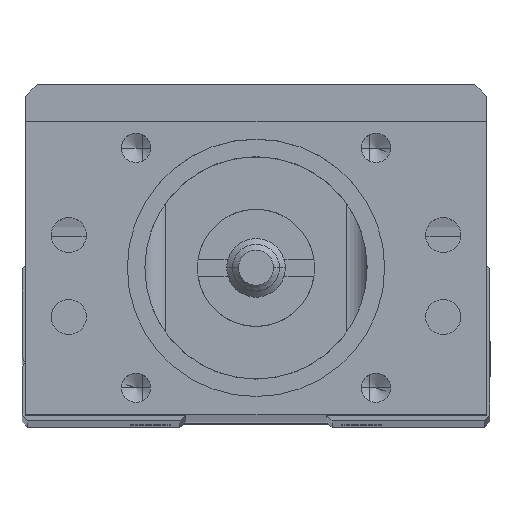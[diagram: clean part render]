
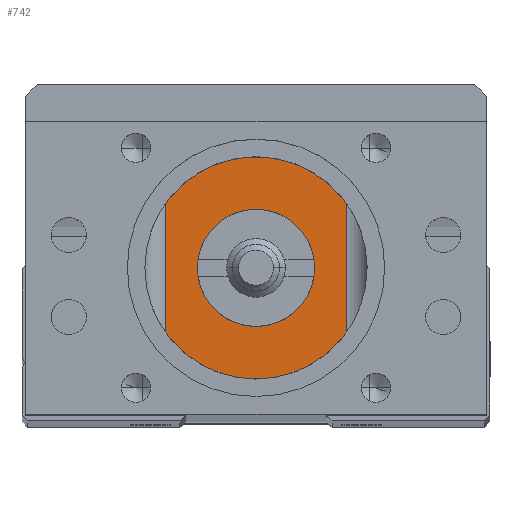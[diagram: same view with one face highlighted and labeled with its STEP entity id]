
A CAD part, top view. The second image highlights one B-rep face of the part: STEP entity #742.
In plain terms, the highlighted planar face has unit normal (0, 0, 1).
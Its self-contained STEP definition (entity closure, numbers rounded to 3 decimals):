
#723 = ORIENTED_EDGE ( 'NONE', *, *, #735, .F. ) ;
#728 = EDGE_LOOP ( 'NONE', ( #723, #732, #1053, #971 ) ) ;
#730 = EDGE_CURVE ( 'NONE', #738, #736, #4396, .T. ) ;
#732 = ORIENTED_EDGE ( 'NONE', *, *, #739, .T. ) ;
#735 = EDGE_CURVE ( 'NONE', #745, #746, #4452, .T. ) ;
#736 = VERTEX_POINT ( 'NONE', #4454 ) ;
#738 = VERTEX_POINT ( 'NONE', #4448 ) ;
#739 = EDGE_CURVE ( 'NONE', #745, #738, #4439, .T. ) ;
#742 = ADVANCED_FACE ( 'NONE', ( #4440, #4435 ), #4432, .F. ) ;
#745 = VERTEX_POINT ( 'NONE', #4447 ) ;
#746 = VERTEX_POINT ( 'NONE', #4431 ) ;
#747 = ORIENTED_EDGE ( 'NONE', *, *, #767, .F. ) ;
#749 = EDGE_LOOP ( 'NONE', ( #747, #750 ) ) ;
#750 = ORIENTED_EDGE ( 'NONE', *, *, #1498, .F. ) ;
#767 = EDGE_CURVE ( 'NONE', #1499, #1443, #4468, .T. ) ;
#770 = EDGE_CURVE ( 'NONE', #736, #746, #4514, .T. ) ;
#971 = ORIENTED_EDGE ( 'NONE', *, *, #770, .T. ) ;
#1053 = ORIENTED_EDGE ( 'NONE', *, *, #730, .T. ) ;
#1443 = VERTEX_POINT ( 'NONE', #5602 ) ;
#1498 = EDGE_CURVE ( 'NONE', #1443, #1499, #5782, .T. ) ;
#1499 = VERTEX_POINT ( 'NONE', #5746 ) ;
#4387 = DIRECTION ( 'NONE',  ( -1., 0., 0. ) ) ;
#4388 = VECTOR ( 'NONE', #4387, 1000. ) ;
#4389 = CARTESIAN_POINT ( 'NONE',  ( -9.7, 25.5, 172.5 ) ) ;
#4396 = LINE ( 'NONE', #4389, #4388 ) ;
#4426 = DIRECTION ( 'NONE',  ( -1., 0., 0. ) ) ;
#4427 = DIRECTION ( 'NONE',  ( 0., 0., -1. ) ) ;
#4428 = CARTESIAN_POINT ( 'NONE',  ( -9.7, 0., 172.5 ) ) ;
#4431 = CARTESIAN_POINT ( 'NONE',  ( -7.7, 0.5, 172.5 ) ) ;
#4432 = PLANE ( 'NONE',  #4442 ) ;
#4435 = FACE_BOUND ( 'NONE', #749, .T. ) ;
#4436 = DIRECTION ( 'NONE',  ( 0., 1., 0. ) ) ;
#4437 = VECTOR ( 'NONE', #4436, 1000. ) ;
#4438 = CARTESIAN_POINT ( 'NONE',  ( 7.7, 25.5, 172.5 ) ) ;
#4439 = LINE ( 'NONE', #4438, #4437 ) ;
#4440 = FACE_OUTER_BOUND ( 'NONE', #728, .T. ) ;
#4442 = AXIS2_PLACEMENT_3D ( 'NONE', #4428, #4427, #4426 ) ;
#4447 = CARTESIAN_POINT ( 'NONE',  ( 7.7, 0.5, 172.5 ) ) ;
#4448 = CARTESIAN_POINT ( 'NONE',  ( 7.7, 25.5, 172.5 ) ) ;
#4449 = DIRECTION ( 'NONE',  ( -1., 0., 0. ) ) ;
#4450 = VECTOR ( 'NONE', #4449, 1000. ) ;
#4451 = CARTESIAN_POINT ( 'NONE',  ( -6., 0.5, 172.5 ) ) ;
#4452 = LINE ( 'NONE', #4451, #4450 ) ;
#4454 = CARTESIAN_POINT ( 'NONE',  ( -7.7, 25.5, 172.5 ) ) ;
#4462 = AXIS2_PLACEMENT_3D ( 'NONE', #4480, #4513, #4512 ) ;
#4468 = CIRCLE ( 'NONE', #4462, 5. ) ;
#4480 = CARTESIAN_POINT ( 'NONE',  ( 0., 13.05, 172.5 ) ) ;
#4507 = DIRECTION ( 'NONE',  ( 0., -1., 0. ) ) ;
#4508 = VECTOR ( 'NONE', #4507, 1000. ) ;
#4509 = CARTESIAN_POINT ( 'NONE',  ( -7.7, 0.5, 172.5 ) ) ;
#4512 = DIRECTION ( 'NONE',  ( -1., 0., 0. ) ) ;
#4513 = DIRECTION ( 'NONE',  ( 0., 0., 1. ) ) ;
#4514 = LINE ( 'NONE', #4509, #4508 ) ;
#5602 = CARTESIAN_POINT ( 'NONE',  ( 5., 13.05, 172.5 ) ) ;
#5746 = CARTESIAN_POINT ( 'NONE',  ( -5., 13.05, 172.5 ) ) ;
#5757 = DIRECTION ( 'NONE',  ( -1., 0., 0. ) ) ;
#5758 = DIRECTION ( 'NONE',  ( 0., 0., 1. ) ) ;
#5759 = CARTESIAN_POINT ( 'NONE',  ( 0., 13.05, 172.5 ) ) ;
#5768 = AXIS2_PLACEMENT_3D ( 'NONE', #5759, #5758, #5757 ) ;
#5782 = CIRCLE ( 'NONE', #5768, 5. ) ;
